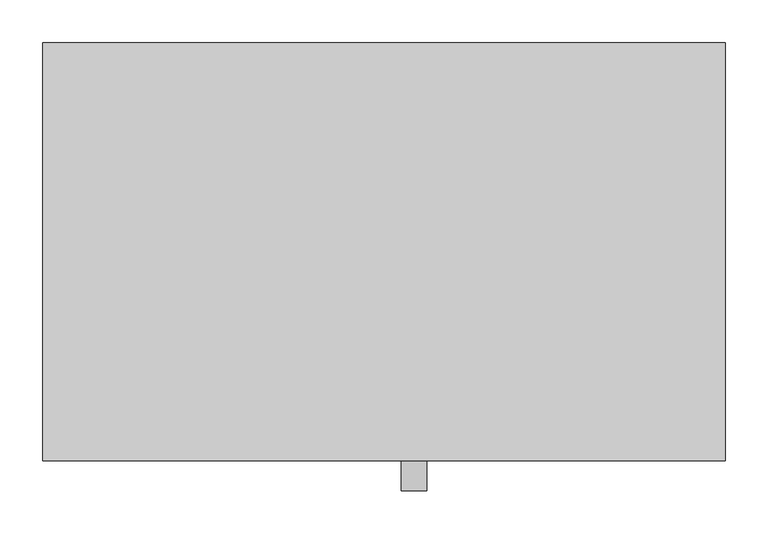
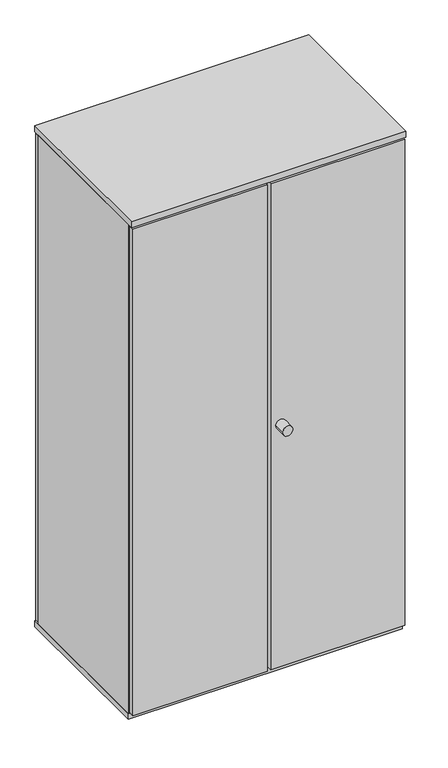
"""IFC4 building model written with IfcOpenShell, lengths in millimetres: furniture geometry, Grid Lockers - 2 Door Complimentary : GRID TWO DOOR CABINET 800mm(w) x 490mm(d) x 1556mm(h)."""

from ifc_helpers import new_model, si_unit, point, frame, frame_2d, origin, origin_with_axes, place, context, project, spatial, polyline, circle_curve, trimmed, segment, composite_curve, outline, extrude, source, transform, mapped, element, save


def furniture_532aaa69(model_context):
    return source(origin(), model_context, "Body", "SweptSolid", [
        extrude(outline(composite_curve([segment(trimmed(circle_curve(frame_2d((750.0, -50.0)), 15.0), [point((735.0, -50.0))], [point((765.0, -50.0))], False, "CARTESIAN"), True, "CONTINUOUS"), segment(trimmed(circle_curve(frame_2d((750.0, -50.0)), 15.0), [point((765.0, -50.0))], [point((735.0, -50.0))], False, "CARTESIAN"), True, "CONTINUOUS")], self_intersect=False)), origin_with_axes(), (0.0, 0.0, 1.0), 10.0),
        extrude(outline(composite_curve([segment(trimmed(circle_curve(frame_2d((50.0, -50.0)), 15.0), [point((35.0, -50.0))], [point((65.0, -50.0))], False, "CARTESIAN"), True, "CONTINUOUS"), segment(trimmed(circle_curve(frame_2d((50.0, -50.0)), 15.0), [point((65.0, -50.0))], [point((35.0, -50.0))], False, "CARTESIAN"), True, "CONTINUOUS")], self_intersect=False)), origin_with_axes(), (0.0, 0.0, 1.0), 10.0),
        extrude(outline(composite_curve([segment(trimmed(circle_curve(frame_2d((50.0, -440.0)), 15.0), [point((35.0, -440.0))], [point((65.0, -440.0))], False, "CARTESIAN"), True, "CONTINUOUS"), segment(trimmed(circle_curve(frame_2d((50.0, -440.0)), 15.0), [point((65.0, -440.0))], [point((35.0, -440.0))], False, "CARTESIAN"), True, "CONTINUOUS")], self_intersect=False)), origin_with_axes(), (0.0, 0.0, 1.0), 10.0),
        extrude(outline(composite_curve([segment(trimmed(circle_curve(frame_2d((750.0, -440.0)), 15.0), [point((735.0, -440.0))], [point((765.0, -440.0))], False, "CARTESIAN"), True, "CONTINUOUS"), segment(trimmed(circle_curve(frame_2d((750.0, -440.0)), 15.0), [point((765.0, -440.0))], [point((735.0, -440.0))], False, "CARTESIAN"), True, "CONTINUOUS")], self_intersect=False)), origin_with_axes(), (0.0, 0.0, 1.0), 10.0),
        extrude(outline(polyline([(800.0, -472.0), (0.0, -472.0), (0.0, 0.0), (800.0, 0.0), (800.0, -472.0)])), frame((0.0, 0.0, 10.0), z_axis=(0.0, 0.0, 1.0), x_axis=(1.0, 0.0, 0.0)), (0.0, 0.0, 1.0), 18.0),
        extrude(outline(polyline([(800.0, -490.0), (0.0, -490.0), (0.0, 0.0), (800.0, 0.0), (800.0, -490.0)])), frame((0.0, 0.0, 1538.0), z_axis=(0.0, 0.0, 1.0), x_axis=(1.0, 0.0, 0.0)), (0.0, 0.0, 1.0), 18.0),
        extrude(outline(composite_curve([segment(trimmed(circle_curve(frame_2d((780.0, 435.0)), 15.0), [point((780.0, 420.0))], [point((780.0, 450.0))], False, "CARTESIAN"), True, "CONTINUOUS"), segment(trimmed(circle_curve(frame_2d((780.0, 435.0)), 15.0), [point((780.0, 450.0))], [point((780.0, 420.0))], False, "CARTESIAN"), True, "CONTINUOUS")], self_intersect=False)), frame((0.0, -525.0, 0.0), z_axis=(0.0, 1.0, 0.0), x_axis=(0.0, 0.0, 1.0)), (0.0, 0.0, 1.0), 35.0),
        extrude(outline(polyline([(1538.0, 800.0), (1538.0, 0.0), (28.0, 0.0), (28.0, 3.0), (1513.0, 3.0), (1513.0, 797.0), (28.0, 797.0), (28.0, 800.0), (1538.0, 800.0)])), frame((0.0, -472.0, 0.0), z_axis=(0.0, 1.0, 0.0), x_axis=(0.0, 0.0, 1.0)), (0.0, 0.0, 1.0), 454.0),
        extrude(outline(polyline([(395.0, -472.0), (395.0, -490.0), (3.0, -490.0), (3.0, -472.0), (395.0, -472.0)])), frame((0.0, 0.0, 32.0), z_axis=(0.0, 0.0, 1.0), x_axis=(1.0, 0.0, 0.0)), (0.0, 0.0, 1.0), 1500.0),
        extrude(outline(polyline([(797.0, -490.0), (405.0, -490.0), (405.0, -472.0), (797.0, -472.0), (797.0, -490.0)])), frame((0.0, 0.0, 32.0), z_axis=(0.0, 0.0, 1.0), x_axis=(1.0, 0.0, 0.0)), (0.0, 0.0, 1.0), 1500.0),
        extrude(outline(polyline([(797.0, 0.0), (797.0, -18.0), (3.0, -18.0), (3.0, 0.0), (797.0, 0.0)])), frame((0.0, 0.0, 18.0), z_axis=(0.0, 0.0, 1.0), x_axis=(1.0, 0.0, 0.0)), (0.0, 0.0, 1.0), 1514.0),
    ])


if __name__ == "__main__":
    model = new_model("IFC4")
    model_context = context("Model", 3, world=origin())
    ifc_project = project(units=[si_unit("LENGTHUNIT", "METRE", prefix="MILLI")], contexts=[model_context])
    site = spatial("IfcSite", under=ifc_project)
    building = spatial("IfcBuilding", under=site)
    placement = place(None, origin())
    furniture_shape = furniture_532aaa69(model_context)
    element("IfcFurniture", 1, ObjectType="Grid Lockers - 2 Door Complimentary : GRID TWO DOOR CABINET 800mm(w) x 490mm(d) x 1556mm(h)", at=placement, inside=building, context=model_context, shape_type="MappedRepresentation", body=[
        mapped(furniture_shape, transform((0.0, 0.0, 0.0), x_axis=(1.0, 0.0, 0.0), y_axis=(0.0, 1.0, 0.0), z_axis=(0.0, 0.0, 1.0))),
    ])
    save(model, "model.ifc")
